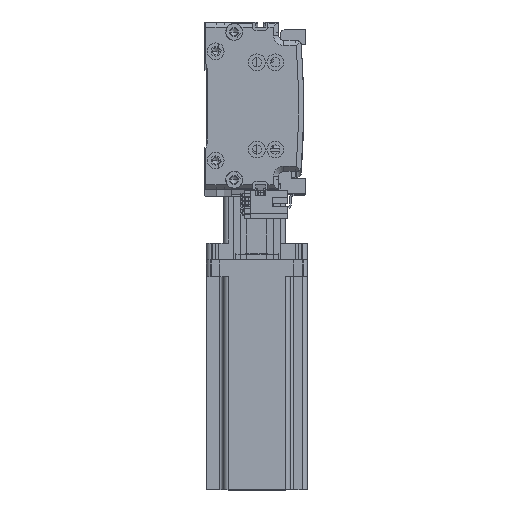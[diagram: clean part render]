
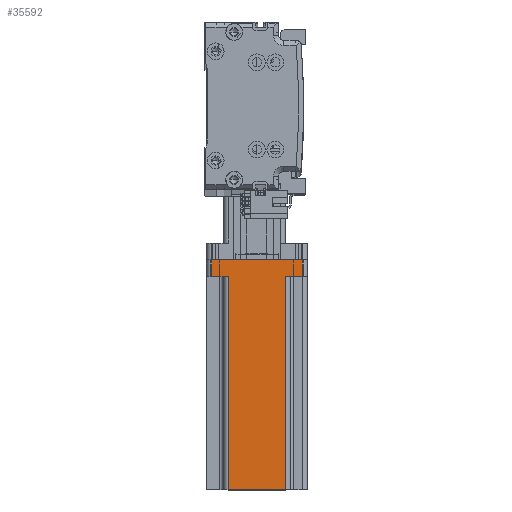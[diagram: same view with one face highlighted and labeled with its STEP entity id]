
A CAD part, top view. The second image highlights one B-rep face of the part: STEP entity #35592.
In plain terms, the highlighted planar face has unit normal (0, 0, 1) as drawn and (0, 1, 0) by its records, which use the part's own axes.
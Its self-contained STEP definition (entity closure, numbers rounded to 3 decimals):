
#1261 = VECTOR ( 'NONE', #11984, 1000. ) ;
#1841 = DIRECTION ( 'NONE',  ( 0., 0., 1. ) ) ;
#3172 = EDGE_CURVE ( 'NONE', #38584, #36152, #50693, .T. ) ;
#3467 = EDGE_CURVE ( 'NONE', #17311, #38584, #24228, .T. ) ;
#5109 = CARTESIAN_POINT ( 'NONE',  ( 17., 30., 137. ) ) ;
#5138 = CARTESIAN_POINT ( 'NONE',  ( -20., 30., 10. ) ) ;
#5180 = CARTESIAN_POINT ( 'NONE',  ( -17., 30., 137. ) ) ;
#6999 = ORIENTED_EDGE ( 'NONE', *, *, #3467, .T. ) ;
#7597 = FACE_OUTER_BOUND ( 'NONE', #20908, .T. ) ;
#8781 = ORIENTED_EDGE ( 'NONE', *, *, #13535, .T. ) ;
#8815 = CARTESIAN_POINT ( 'NONE',  ( 27., 30., 0. ) ) ;
#8874 = VECTOR ( 'NONE', #32612, 1000. ) ;
#9813 = DIRECTION ( 'NONE',  ( 0., 0., 1. ) ) ;
#10630 = AXIS2_PLACEMENT_3D ( 'NONE', #51211, #20637, #56321 ) ;
#11984 = DIRECTION ( 'NONE',  ( -1., 0., 0. ) ) ;
#12881 = CARTESIAN_POINT ( 'NONE',  ( 30., 30., 137. ) ) ;
#13436 = VECTOR ( 'NONE', #9813, 1000. ) ;
#13535 = EDGE_CURVE ( 'NONE', #37372, #17311, #15042, .T. ) ;
#15042 = LINE ( 'NONE', #60689, #13436 ) ;
#15487 = CARTESIAN_POINT ( 'NONE',  ( -27., 30., 10. ) ) ;
#15960 = DIRECTION ( 'NONE',  ( 0., 0., -1. ) ) ;
#17311 = VERTEX_POINT ( 'NONE', #15487 ) ;
#19205 = VECTOR ( 'NONE', #25388, 1000. ) ;
#19783 = EDGE_CURVE ( 'NONE', #60983, #24904, #48939, .T. ) ;
#20423 = PLANE ( 'NONE',  #10630 ) ;
#20637 = DIRECTION ( 'NONE',  ( 0., -1., 0. ) ) ;
#20908 = EDGE_LOOP ( 'NONE', ( #6999, #35073, #57737, #23345, #35699, #56494, #34025, #8781 ) ) ;
#23345 = ORIENTED_EDGE ( 'NONE', *, *, #23741, .T. ) ;
#23444 = EDGE_CURVE ( 'NONE', #60983, #29960, #47995, .T. ) ;
#23521 = VECTOR ( 'NONE', #1841, 1000. ) ;
#23741 = EDGE_CURVE ( 'NONE', #31696, #29960, #59886, .T. ) ;
#24228 = LINE ( 'NONE', #5138, #63349 ) ;
#24904 = VERTEX_POINT ( 'NONE', #8815 ) ;
#25388 = DIRECTION ( 'NONE',  ( 0., 0., -1. ) ) ;
#26215 = CARTESIAN_POINT ( 'NONE',  ( -27., 30., 0. ) ) ;
#29174 = CARTESIAN_POINT ( 'NONE',  ( 17., 30., 10. ) ) ;
#29960 = VERTEX_POINT ( 'NONE', #29174 ) ;
#31696 = VERTEX_POINT ( 'NONE', #5109 ) ;
#32612 = DIRECTION ( 'NONE',  ( -1., 0., 0. ) ) ;
#34025 = ORIENTED_EDGE ( 'NONE', *, *, #35344, .T. ) ;
#35073 = ORIENTED_EDGE ( 'NONE', *, *, #3172, .T. ) ;
#35344 = EDGE_CURVE ( 'NONE', #24904, #37372, #43556, .T. ) ;
#35592 = ADVANCED_FACE ( 'NONE', ( #7597 ), #20423, .F. ) ;
#35699 = ORIENTED_EDGE ( 'NONE', *, *, #23444, .F. ) ;
#36152 = VERTEX_POINT ( 'NONE', #5180 ) ;
#37372 = VERTEX_POINT ( 'NONE', #26215 ) ;
#37757 = CARTESIAN_POINT ( 'NONE',  ( 20., 30., 10. ) ) ;
#38548 = CARTESIAN_POINT ( 'NONE',  ( -17., 30., 10. ) ) ;
#38584 = VERTEX_POINT ( 'NONE', #38548 ) ;
#40572 = CARTESIAN_POINT ( 'NONE',  ( 17., 30., 137. ) ) ;
#40820 = DIRECTION ( 'NONE',  ( 1., 0., 0. ) ) ;
#42657 = CARTESIAN_POINT ( 'NONE',  ( -17., 30., 137. ) ) ;
#43556 = LINE ( 'NONE', #57932, #1261 ) ;
#46511 = CARTESIAN_POINT ( 'NONE',  ( 27., 30., 137. ) ) ;
#47995 = LINE ( 'NONE', #37757, #8874 ) ;
#48939 = LINE ( 'NONE', #46511, #60913 ) ;
#50693 = LINE ( 'NONE', #42657, #23521 ) ;
#51211 = CARTESIAN_POINT ( 'NONE',  ( 30., 30., 137. ) ) ;
#55573 = CARTESIAN_POINT ( 'NONE',  ( 27., 30., 10. ) ) ;
#56321 = DIRECTION ( 'NONE',  ( 1., 0., 0. ) ) ;
#56494 = ORIENTED_EDGE ( 'NONE', *, *, #19783, .T. ) ;
#57737 = ORIENTED_EDGE ( 'NONE', *, *, #60067, .F. ) ;
#57932 = CARTESIAN_POINT ( 'NONE',  ( 30., 30., 0. ) ) ;
#59156 = LINE ( 'NONE', #12881, #60759 ) ;
#59886 = LINE ( 'NONE', #40572, #19205 ) ;
#60067 = EDGE_CURVE ( 'NONE', #31696, #36152, #59156, .T. ) ;
#60689 = CARTESIAN_POINT ( 'NONE',  ( -27., 30., 137. ) ) ;
#60759 = VECTOR ( 'NONE', #63707, 1000. ) ;
#60913 = VECTOR ( 'NONE', #15960, 1000. ) ;
#60983 = VERTEX_POINT ( 'NONE', #55573 ) ;
#63349 = VECTOR ( 'NONE', #40820, 1000. ) ;
#63707 = DIRECTION ( 'NONE',  ( -1., 0., 0. ) ) ;
